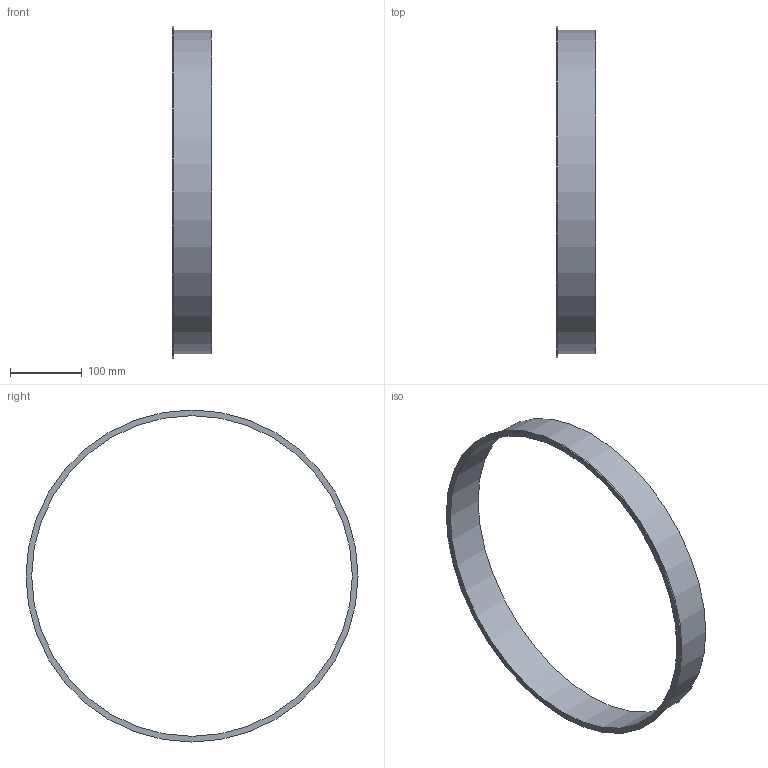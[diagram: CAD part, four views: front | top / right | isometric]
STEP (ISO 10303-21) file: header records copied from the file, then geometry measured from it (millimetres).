
FILE_DESCRIPTION((''),'2;1');
FILE_NAME('U:\Wolfgang\Marcel-3D\fertig\Kapitel 1\4521012.stp','2010-05-31T12:37:23',('TK2'),(''),'Autodesk Inventor 2010','Autodesk Inventor 2010','');
FILE_SCHEMA(('AUTOMOTIVE_DESIGN { 1 0 10303 214 1 1 1 1 }'));
Length unit declared in the file: millimetre
Products named in the file (1): 4521012
Bounding box: 55 x 464 x 464 mm (x, y, z)
Volume: 172775 mm3; surface area: 178505.3 mm2
Topology: 1 solids, 1 shells, 6 faces, 9 edges, 6 vertices
Faces by surface type: cylinder 3, plane 3
Full cylindrical faces by diameter (mm): 448 x1, 452 x1, 464 x1
Entity records: 154 total; most frequent: DIRECTION 26, CARTESIAN_POINT 19, AXIS2_PLACEMENT_3D 13, ORIENTED_EDGE 12, EDGE_LOOP 12, VERTEX_POINT 6, CIRCLE 6, EDGE_CURVE 6
